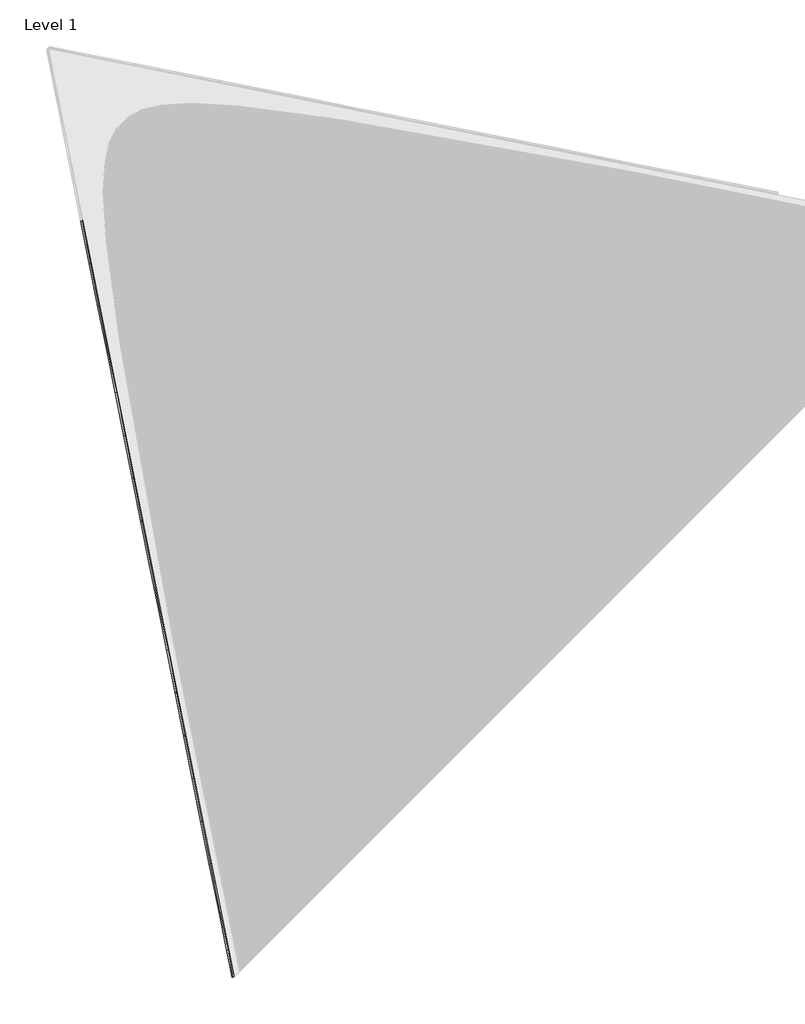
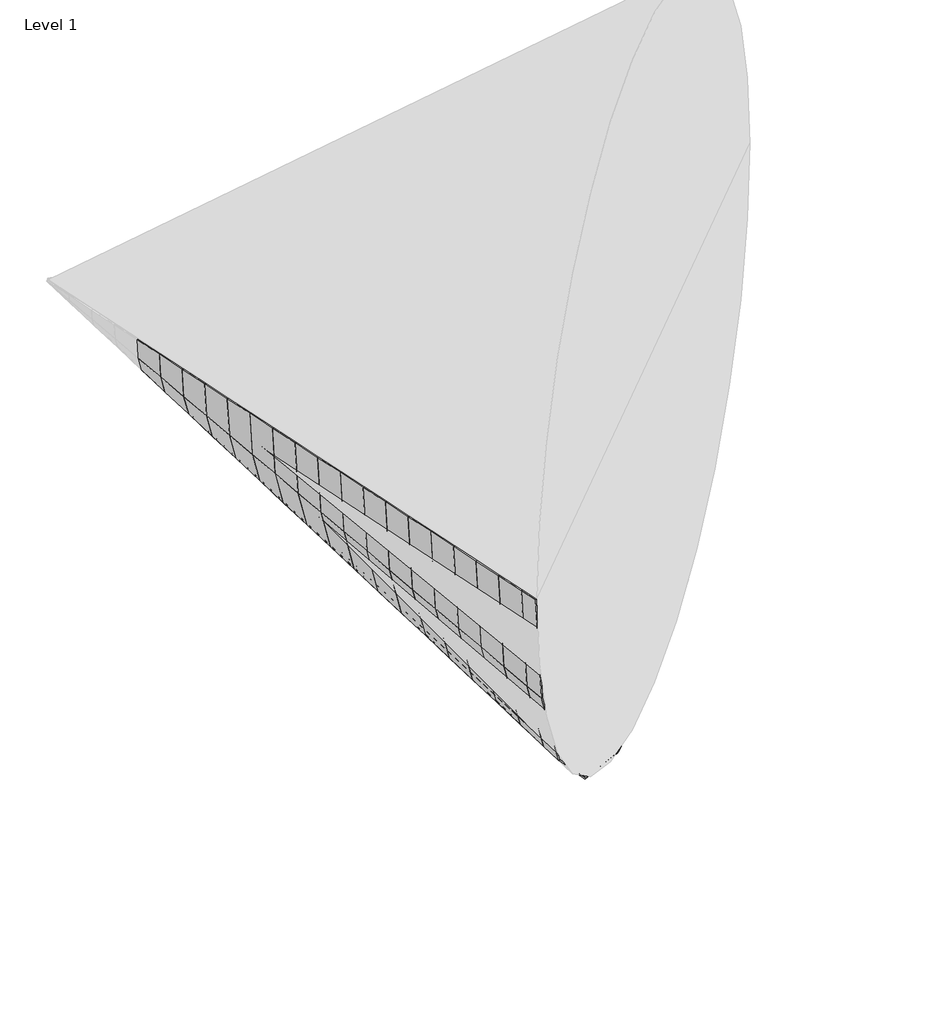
# One storey, part 1 of 3: 76 plates.
"""IFC4 building model written with IfcOpenShell, lengths in millimetres."""

from ifc_helpers import new_model, si_unit, origin, place, context, project, spatial, transform, mapped, element, save
from components import system_panel_glazed_f45525ea, system_panel_glazed_80685a2c, system_panel_glazed_488679e0, system_panel_glazed_5c7ad1fa, system_panel_glazed_c752f533, system_panel_glazed_6e7ce93c, system_panel_glazed_3d0a4322, system_panel_glazed_80a4cad8, system_panel_glazed_88a27ec3, system_panel_glazed_43d3b831, system_panel_glazed_c03609ab, system_panel_glazed_4fe2338e, system_panel_glazed_aa8377f3, system_panel_glazed_52904192, system_panel_glazed_15a0884d, system_panel_glazed_a404a3f6, system_panel_glazed_49170262, system_panel_glazed_4835debb

model = new_model("IFC4")

# Units and contexts
model_context = context("Model", 3, world=origin())
ifc_project = project(units=[si_unit("LENGTHUNIT", "METRE", prefix="MILLI")], contexts=[model_context])

# Site, building, storey
site = spatial("IfcSite", under=ifc_project)
building = spatial("IfcBuilding", under=site)
storey = spatial("IfcBuildingStorey", under=building, Name="Level 1", Elevation=0.0)

# Plates
placement = place(None, origin())
system_panel_glazed_shape = system_panel_glazed_f45525ea(model_context)
element("IfcPlate", 1, ObjectType="System Panel : Glazed", at=placement, inside=storey, context=model_context, shape_type="MappedRepresentation", body=[
    mapped(system_panel_glazed_shape, transform((-10524.0400222, 7407.4857952, -277.8464189), x_axis=(0.11785113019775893, 0.11785113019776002, -0.986013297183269), y_axis=(0.9710241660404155, 0.1942048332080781, 0.1392715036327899), z_axis=(0.20790185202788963, -0.9738560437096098, -0.09154903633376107))),
])
element("IfcPlate", 2, ObjectType="System Panel : Glazed", at=placement, inside=storey, context=model_context, shape_type="MappedRepresentation", body=[
    mapped(system_panel_glazed_shape, transform((-10394.8939154, 7536.6319019, -802.6674323), x_axis=(0.3404588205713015, 0.3404588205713, -0.8764562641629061), y_axis=(0.906289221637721, 0.12946988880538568, 0.4023398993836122), z_axis=(0.2504548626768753, -0.9313030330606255, -0.26447499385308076))),
])
element("IfcPlate", 3, ObjectType="System Panel : Glazed", at=placement, inside=storey, context=model_context, shape_type="MappedRepresentation", body=[
    mapped(system_panel_glazed_shape, transform((-10150.9512693, 7780.5745481, -1238.3031755), x_axis=(0.5252377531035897, 0.5252377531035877, -0.6695152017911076), y_axis=(0.7840121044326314, 0.007192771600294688, 0.6207038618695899), z_axis=(0.3308327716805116, -0.8509251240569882, -0.4080148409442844))),
])
system_panel_glazed_2_shape = system_panel_glazed_80685a2c(model_context)
element("IfcPlate", 4, ObjectType="System Panel : Glazed", at=placement, inside=storey, context=model_context, shape_type="MappedRepresentation", body=[
    mapped(system_panel_glazed_2_shape, transform((-10366.2972775, 6668.58557, -347.3080236), x_axis=(0.11785113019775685, 0.11785113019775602, -0.9860132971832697), y_axis=(0.9710241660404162, 0.19420483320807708, 0.1392715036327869), z_axis=(0.20790185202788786, -0.9738560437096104, -0.0915490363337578))),
])
element("IfcPlate", 5, ObjectType="System Panel : Glazed", at=placement, inside=storey, context=model_context, shape_type="MappedRepresentation", body=[
    mapped(system_panel_glazed_2_shape, transform((-10204.864644, 6830.0182035, -1003.3342904), x_axis=(0.34045882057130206, 0.3404588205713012, -0.8764562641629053), y_axis=(0.9062892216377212, 0.12946988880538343, 0.40233989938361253), z_axis=(0.2504548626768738, -0.9313030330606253, -0.26447499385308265))),
])
element("IfcPlate", 6, ObjectType="System Panel : Glazed", at=placement, inside=storey, context=model_context, shape_type="MappedRepresentation", body=[
    mapped(system_panel_glazed_2_shape, transform((-9899.9363364, 7134.9465111, -1547.8789693), x_axis=(0.5252377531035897, 0.5252377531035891, -0.6695152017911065), y_axis=(0.7840121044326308, 0.007192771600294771, 0.6207038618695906), z_axis=(0.33083277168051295, -0.8509251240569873, -0.40801484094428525))),
])
element("IfcPlate", 7, ObjectType="System Panel : Glazed", at=placement, inside=storey, context=model_context, shape_type="MappedRepresentation", body=[
    mapped(system_panel_glazed_2_shape, transform((-9485.3932776, 7549.4895699, -1920.4370961), x_axis=(0.6516569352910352, 0.6516569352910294, -0.3881835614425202), y_axis=(0.6177791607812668, -0.15904017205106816, 0.7701007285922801), z_axis=(0.4401047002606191, -0.7416531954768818, -0.5062197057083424))),
])
system_panel_glazed_3_shape = system_panel_glazed_488679e0(model_context)
element("IfcPlate", 8, ObjectType="System Panel : Glazed", at=placement, inside=storey, context=model_context, shape_type="MappedRepresentation", body=[
    mapped(system_panel_glazed_3_shape, transform((-10208.5545328, 5929.6853449, -416.7696283), x_axis=(0.11785113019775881, 0.11785113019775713, -0.9860132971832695), y_axis=(0.9710241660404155, 0.19420483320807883, 0.1392715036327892), z_axis=(0.2079018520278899, -0.9738560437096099, -0.0915490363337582))),
])
element("IfcPlate", 9, ObjectType="System Panel : Glazed", at=placement, inside=storey, context=model_context, shape_type="MappedRepresentation", body=[
    mapped(system_panel_glazed_3_shape, transform((-10014.8353726, 6123.404505, -1204.0011484), x_axis=(0.3404588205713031, 0.34045882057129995, -0.8764562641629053), y_axis=(0.9062892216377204, 0.12946988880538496, 0.40233989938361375), z_axis=(0.25045486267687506, -0.9313030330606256, -0.2644749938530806))),
])
element("IfcPlate", 10, ObjectType="System Panel : Glazed", at=placement, inside=storey, context=model_context, shape_type="MappedRepresentation", body=[
    mapped(system_panel_glazed_3_shape, transform((-9648.9214034, 6489.3184742, -1857.4547632), x_axis=(0.5252377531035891, 0.5252377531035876, -0.6695152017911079), y_axis=(0.7840121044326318, 0.007192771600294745, 0.6207038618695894), z_axis=(0.3308327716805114, -0.8509251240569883, -0.40801484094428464))),
])
element("IfcPlate", 11, ObjectType="System Panel : Glazed", at=placement, inside=storey, context=model_context, shape_type="MappedRepresentation", body=[
    mapped(system_panel_glazed_3_shape, transform((-9151.4697329, 6986.7701447, -2304.5245154), x_axis=(0.6516569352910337, 0.6516569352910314, -0.38818356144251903), y_axis=(0.6177791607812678, -0.1590401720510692, 0.770100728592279), z_axis=(0.4401047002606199, -0.7416531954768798, -0.5062197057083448))),
])
element("IfcPlate", 12, ObjectType="System Panel : Glazed", at=placement, inside=storey, context=model_context, shape_type="MappedRepresentation", body=[
    mapped(system_panel_glazed_3_shape, transform((-8577.7527689, 7560.4871087, -2495.535988), x_axis=(0.7056697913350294, 0.7056697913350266, -0.06372041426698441), y_axis=(0.42606071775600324, -0.3507586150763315, 0.8339308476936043), z_axis=(0.56612932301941, -0.6156285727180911, -0.5481779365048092))),
])
system_panel_glazed_4_shape = system_panel_glazed_5c7ad1fa(model_context)
element("IfcPlate", 13, ObjectType="System Panel : Glazed", at=placement, inside=storey, context=model_context, shape_type="MappedRepresentation", body=[
    mapped(system_panel_glazed_4_shape, transform((-10050.8117881, 5190.7851197, -486.231233), x_axis=(0.11785113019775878, 0.11785113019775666, -0.9860132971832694), y_axis=(0.9710241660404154, 0.1942048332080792, 0.13927150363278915), z_axis=(0.20790185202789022, -0.9738560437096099, -0.09154903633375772))),
])
element("IfcPlate", 14, ObjectType="System Panel : Glazed", at=placement, inside=storey, context=model_context, shape_type="MappedRepresentation", body=[
    mapped(system_panel_glazed_4_shape, transform((-9824.8061012, 5416.7908065, -1404.6680065), x_axis=(0.3404588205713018, 0.34045882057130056, -0.8764562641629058), y_axis=(0.9062892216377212, 0.12946988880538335, 0.4023398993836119), z_axis=(0.25045486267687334, -0.9313030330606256, -0.26447499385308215))),
])
element("IfcPlate", 15, ObjectType="System Panel : Glazed", at=placement, inside=storey, context=model_context, shape_type="MappedRepresentation", body=[
    mapped(system_panel_glazed_4_shape, transform((-9397.9064705, 5843.6904373, -2167.030557), x_axis=(0.5252377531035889, 0.5252377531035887, -0.6695152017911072), y_axis=(0.7840121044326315, 0.007192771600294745, 0.6207038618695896), z_axis=(0.33083277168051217, -0.8509251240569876, -0.40801484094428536))),
])
element("IfcPlate", 16, ObjectType="System Panel : Glazed", at=placement, inside=storey, context=model_context, shape_type="MappedRepresentation", body=[
    mapped(system_panel_glazed_4_shape, transform((-8817.5461883, 6424.0507195, -2688.6119346), x_axis=(0.6516569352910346, 0.6516569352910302, -0.3881835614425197), y_axis=(0.617779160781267, -0.15904017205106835, 0.7701007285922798), z_axis=(0.44010470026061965, -0.7416531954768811, -0.5062197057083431))),
])
element("IfcPlate", 17, ObjectType="System Panel : Glazed", at=placement, inside=storey, context=model_context, shape_type="MappedRepresentation", body=[
    mapped(system_panel_glazed_4_shape, transform((-8148.2097302, 7093.3871775, -2911.4586527), x_axis=(0.7056697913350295, 0.7056697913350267, -0.06372041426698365), y_axis=(0.42606071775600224, -0.35075861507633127, 0.8339308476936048), z_axis=(0.5661293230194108, -0.6156285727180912, -0.5481779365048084))),
])
system_panel_glazed_5_shape = system_panel_glazed_c752f533(model_context)
element("IfcPlate", 18, ObjectType="System Panel : Glazed", at=placement, inside=storey, context=model_context, shape_type="MappedRepresentation", body=[
    mapped(system_panel_glazed_5_shape, transform((-9893.0690434, 4451.8848945, -555.6928377), x_axis=(0.1178511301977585, 0.11785113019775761, -0.9860132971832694), y_axis=(0.9710241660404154, 0.19420483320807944, 0.1392715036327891), z_axis=(0.20790185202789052, -0.9738560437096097, -0.09154903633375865))),
])
element("IfcPlate", 19, ObjectType="System Panel : Glazed", at=placement, inside=storey, context=model_context, shape_type="MappedRepresentation", body=[
    mapped(system_panel_glazed_5_shape, transform((-9634.7768298, 4710.1771081, -1605.3348646), x_axis=(0.34045882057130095, 0.3404588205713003, -0.8764562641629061), y_axis=(0.9062892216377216, 0.1294698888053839, 0.40233989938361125), z_axis=(0.25045486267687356, -0.9313030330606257, -0.26447499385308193))),
])
element("IfcPlate", 20, ObjectType="System Panel : Glazed", at=placement, inside=storey, context=model_context, shape_type="MappedRepresentation", body=[
    mapped(system_panel_glazed_5_shape, transform((-9146.8915376, 5198.0624003, -2476.6063509), x_axis=(0.5252377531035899, 0.5252377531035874, -0.6695152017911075), y_axis=(0.7840121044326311, 0.007192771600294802, 0.6207038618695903), z_axis=(0.33083277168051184, -0.8509251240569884, -0.40801484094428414))),
])
element("IfcPlate", 21, ObjectType="System Panel : Glazed", at=placement, inside=storey, context=model_context, shape_type="MappedRepresentation", body=[
    mapped(system_panel_glazed_5_shape, transform((-8483.6226436, 5861.3312943, -3072.6993538), x_axis=(0.6516569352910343, 0.6516569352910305, -0.38818356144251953), y_axis=(0.6177791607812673, -0.15904017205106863, 0.7701007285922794), z_axis=(0.4401047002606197, -0.7416531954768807, -0.5062197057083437))),
])
system_panel_glazed_6_shape = system_panel_glazed_6e7ce93c(model_context)
element("IfcPlate", 22, ObjectType="System Panel : Glazed", at=placement, inside=storey, context=model_context, shape_type="MappedRepresentation", body=[
    mapped(system_panel_glazed_6_shape, transform((-9735.3262987, 3712.9846694, -625.1544425), x_axis=(0.11785113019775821, 0.11785113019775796, -0.9860132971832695), y_axis=(0.9710241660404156, 0.19420483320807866, 0.13927150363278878), z_axis=(0.2079018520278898, -0.9738560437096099, -0.09154903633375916))),
])
element("IfcPlate", 23, ObjectType="System Panel : Glazed", at=placement, inside=storey, context=model_context, shape_type="MappedRepresentation", body=[
    mapped(system_panel_glazed_6_shape, transform((-9444.7475585, 4003.5634096, -1806.0017227), x_axis=(0.3404588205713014, 0.3404588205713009, -0.8764562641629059), y_axis=(0.906289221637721, 0.12946988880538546, 0.40233989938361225), z_axis=(0.2504548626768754, -0.9313030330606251, -0.26447499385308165))),
])
element("IfcPlate", 24, ObjectType="System Panel : Glazed", at=placement, inside=storey, context=model_context, shape_type="MappedRepresentation", body=[
    mapped(system_panel_glazed_6_shape, transform((-8895.8766047, 4552.4343634, -2786.1821448), x_axis=(0.5252377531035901, 0.5252377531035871, -0.6695152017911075), y_axis=(0.7840121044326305, 0.007192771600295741, 0.6207038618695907), z_axis=(0.3308327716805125, -0.8509251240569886, -0.40801484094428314))),
])
element("IfcPlate", 25, ObjectType="System Panel : Glazed", at=placement, inside=storey, context=model_context, shape_type="MappedRepresentation", body=[
    mapped(system_panel_glazed_6_shape, transform((-8149.6990989, 5298.6118692, -3456.786773), x_axis=(0.651656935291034, 0.6516569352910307, -0.38818356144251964), y_axis=(0.6177791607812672, -0.15904017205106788, 0.7701007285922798), z_axis=(0.4401047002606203, -0.7416531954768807, -0.5062197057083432))),
])
system_panel_glazed_7_shape = system_panel_glazed_3d0a4322(model_context)
element("IfcPlate", 26, ObjectType="System Panel : Glazed", at=placement, inside=storey, context=model_context, shape_type="MappedRepresentation", body=[
    mapped(system_panel_glazed_7_shape, transform((-9577.583554, 2974.0844442, -694.6160472), x_axis=(0.11785113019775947, 0.1178511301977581, -0.9860132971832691), y_axis=(0.9710241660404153, 0.19420483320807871, 0.1392715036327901), z_axis=(0.20790185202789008, -0.97385604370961, -0.09154903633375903))),
])
element("IfcPlate", 27, ObjectType="System Panel : Glazed", at=placement, inside=storey, context=model_context, shape_type="MappedRepresentation", body=[
    mapped(system_panel_glazed_7_shape, transform((-9254.7182871, 3296.9497112, -2006.6685807), x_axis=(0.34045882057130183, 0.3404588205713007, -0.8764562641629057), y_axis=(0.9062892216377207, 0.12946988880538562, 0.40233989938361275), z_axis=(0.2504548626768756, -0.9313030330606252, -0.2644749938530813))),
])
element("IfcPlate", 28, ObjectType="System Panel : Glazed", at=placement, inside=storey, context=model_context, shape_type="MappedRepresentation", body=[
    mapped(system_panel_glazed_7_shape, transform((-8644.8616718, 3906.8063265, -3095.7579386), x_axis=(0.5252377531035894, 0.5252377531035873, -0.6695152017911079), y_axis=(0.7840121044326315, 0.007192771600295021, 0.6207038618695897), z_axis=(0.33083277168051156, -0.8509251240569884, -0.40801484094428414))),
])
system_panel_glazed_8_shape = system_panel_glazed_80a4cad8(model_context)
element("IfcPlate", 29, ObjectType="System Panel : Glazed", at=placement, inside=storey, context=model_context, shape_type="MappedRepresentation", body=[
    mapped(system_panel_glazed_8_shape, transform((-9419.8408093, 2235.1842191, -764.0776519), x_axis=(0.11785113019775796, 0.11785113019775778, -0.9860132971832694), y_axis=(0.9710241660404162, 0.1942048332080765, 0.13927150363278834), z_axis=(0.20790185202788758, -0.9738560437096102, -0.09154903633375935))),
])
element("IfcPlate", 30, ObjectType="System Panel : Glazed", at=placement, inside=storey, context=model_context, shape_type="MappedRepresentation", body=[
    mapped(system_panel_glazed_8_shape, transform((-9064.6890157, 2590.3360127, -2207.3354388), x_axis=(0.3404588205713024, 0.34045882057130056, -0.8764562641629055), y_axis=(0.9062892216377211, 0.12946988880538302, 0.40233989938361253), z_axis=(0.2504548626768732, -0.9313030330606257, -0.26447499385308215))),
])
element("IfcPlate", 31, ObjectType="System Panel : Glazed", at=placement, inside=storey, context=model_context, shape_type="MappedRepresentation", body=[
    mapped(system_panel_glazed_8_shape, transform((-8393.8467389, 3261.1782895, -3405.3337325), x_axis=(0.5252377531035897, 0.5252377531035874, -0.6695152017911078), y_axis=(0.7840121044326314, 0.0071927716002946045, 0.6207038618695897), z_axis=(0.3308327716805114, -0.8509251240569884, -0.40801484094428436))),
])
system_panel_glazed_9_shape = system_panel_glazed_88a27ec3(model_context)
element("IfcPlate", 32, ObjectType="System Panel : Glazed", at=placement, inside=storey, context=model_context, shape_type="MappedRepresentation", body=[
    mapped(system_panel_glazed_9_shape, transform((-9262.0980646, 1496.2839939, -833.5392566), x_axis=(0.11785113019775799, 0.1178511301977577, -0.9860132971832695), y_axis=(0.9710241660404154, 0.19420483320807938, 0.1392715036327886), z_axis=(0.20790185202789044, -0.9738560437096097, -0.09154903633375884))),
])
element("IfcPlate", 33, ObjectType="System Panel : Glazed", at=placement, inside=storey, context=model_context, shape_type="MappedRepresentation", body=[
    mapped(system_panel_glazed_9_shape, transform((-8874.6597443, 1883.7223142, -2408.0022969), x_axis=(0.34045882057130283, 0.3404588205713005, -0.8764562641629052), y_axis=(0.9062892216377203, 0.12946988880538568, 0.4023398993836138), z_axis=(0.25045486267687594, -0.9313030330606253, -0.2644749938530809))),
])
element("IfcPlate", 34, ObjectType="System Panel : Glazed", at=placement, inside=storey, context=model_context, shape_type="MappedRepresentation", body=[
    mapped(system_panel_glazed_9_shape, transform((-8142.8318059, 2615.5502526, -3714.9095264), x_axis=(0.5252377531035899, 0.5252377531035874, -0.6695152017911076), y_axis=(0.7840121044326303, 0.007192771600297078, 0.6207038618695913), z_axis=(0.33083277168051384, -0.8509251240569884, -0.40801484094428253))),
])
element("IfcPlate", 35, ObjectType="System Panel : Glazed", at=placement, inside=storey, context=model_context, shape_type="MappedRepresentation", body=[
    mapped(system_panel_glazed_9_shape, transform((-7147.9284649, 3610.4535936, -4609.0490307), x_axis=(0.651656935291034, 0.651656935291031, -0.3881835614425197), y_axis=(0.6177791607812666, -0.15904017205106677, 0.7701007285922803), z_axis=(0.4401047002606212, -0.7416531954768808, -0.5062197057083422))),
])
system_panel_glazed_10_shape = system_panel_glazed_43d3b831(model_context)
element("IfcPlate", 36, ObjectType="System Panel : Glazed", at=placement, inside=storey, context=model_context, shape_type="MappedRepresentation", body=[
    mapped(system_panel_glazed_10_shape, transform((-9104.3553199, 757.3837688, -903.0008613), x_axis=(0.11785113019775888, 0.11785113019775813, -0.9860132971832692), y_axis=(0.9710241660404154, 0.1942048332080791, 0.13927150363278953), z_axis=(0.2079018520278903, -0.9738560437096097, -0.09154903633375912))),
])
element("IfcPlate", 37, ObjectType="System Panel : Glazed", at=placement, inside=storey, context=model_context, shape_type="MappedRepresentation", body=[
    mapped(system_panel_glazed_10_shape, transform((-8684.6304729, 1177.1086158, -2608.6691549), x_axis=(0.34045882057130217, 0.34045882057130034, -0.8764562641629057), y_axis=(0.9062892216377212, 0.12946988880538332, 0.4023398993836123), z_axis=(0.25045486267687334, -0.9313030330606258, -0.26447499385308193))),
])
element("IfcPlate", 38, ObjectType="System Panel : Glazed", at=placement, inside=storey, context=model_context, shape_type="MappedRepresentation", body=[
    mapped(system_panel_glazed_10_shape, transform((-7891.816873, 1969.9222157, -4024.4853202), x_axis=(0.52523775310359, 0.5252377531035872, -0.6695152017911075), y_axis=(0.7840121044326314, 0.007192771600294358, 0.62070386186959), z_axis=(0.33083277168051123, -0.8509251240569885, -0.40801484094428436))),
])
element("IfcPlate", 39, ObjectType="System Panel : Glazed", at=placement, inside=storey, context=model_context, shape_type="MappedRepresentation", body=[
    mapped(system_panel_glazed_10_shape, transform((-6814.0049202, 3047.7341684, -4993.1364499), x_axis=(0.6516569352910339, 0.6516569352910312, -0.3881835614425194), y_axis=(0.6177791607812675, -0.1590401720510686, 0.7701007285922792), z_axis=(0.44010470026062, -0.7416531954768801, -0.5062197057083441))),
])
system_panel_glazed_11_shape = system_panel_glazed_c03609ab(model_context)
element("IfcPlate", 40, ObjectType="System Panel : Glazed", at=placement, inside=storey, context=model_context, shape_type="MappedRepresentation", body=[
    mapped(system_panel_glazed_11_shape, transform((-8946.6125752, 18.4835436, -972.462466), x_axis=(0.11785113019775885, 0.11785113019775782, -0.9860132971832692), y_axis=(0.9710241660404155, 0.19420483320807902, 0.13927150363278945), z_axis=(0.20790185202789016, -0.9738560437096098, -0.09154903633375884))),
])
element("IfcPlate", 41, ObjectType="System Panel : Glazed", at=placement, inside=storey, context=model_context, shape_type="MappedRepresentation", body=[
    mapped(system_panel_glazed_11_shape, transform((-8494.6012015, 470.4949173, -2809.336013), x_axis=(0.34045882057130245, 0.34045882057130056, -0.8764562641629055), y_axis=(0.9062892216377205, 0.12946988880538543, 0.4023398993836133), z_axis=(0.2504548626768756, -0.9313030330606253, -0.26447499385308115))),
])
element("IfcPlate", 42, ObjectType="System Panel : Glazed", at=placement, inside=storey, context=model_context, shape_type="MappedRepresentation", body=[
    mapped(system_panel_glazed_11_shape, transform((-7640.8019401, 1324.2941787, -4334.0611141), x_axis=(0.5252377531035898, 0.5252377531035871, -0.6695152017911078), y_axis=(0.7840121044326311, 0.007192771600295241, 0.6207038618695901), z_axis=(0.33083277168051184, -0.8509251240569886, -0.4080148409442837))),
])
element("IfcPlate", 43, ObjectType="System Panel : Glazed", at=placement, inside=storey, context=model_context, shape_type="MappedRepresentation", body=[
    mapped(system_panel_glazed_11_shape, transform((-6480.0813756, 2485.0147433, -5377.2238692), x_axis=(0.6516569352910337, 0.651656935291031, -0.38818356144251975), y_axis=(0.6177791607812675, -0.15904017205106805, 0.7701007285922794), z_axis=(0.4401047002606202, -0.7416531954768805, -0.5062197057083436))),
])
element("IfcPlate", 44, ObjectType="System Panel : Glazed", at=placement, inside=storey, context=model_context, shape_type="MappedRepresentation", body=[
    mapped(system_panel_glazed_11_shape, transform((-5141.4084595, 3823.6876593, -5822.9173054), x_axis=(0.7056697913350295, 0.7056697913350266, -0.06372041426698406), y_axis=(0.4260607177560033, -0.35075861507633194, 0.833930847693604), z_axis=(0.5661293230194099, -0.6156285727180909, -0.5481779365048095))),
])
system_panel_glazed_12_shape = system_panel_glazed_4fe2338e(model_context)
element("IfcPlate", 45, ObjectType="System Panel : Glazed", at=placement, inside=storey, context=model_context, shape_type="MappedRepresentation", body=[
    mapped(system_panel_glazed_12_shape, transform((-8788.8698305, -720.4166815, -1041.9240708), x_axis=(0.1178511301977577, 0.11785113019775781, -0.9860132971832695), y_axis=(0.9710241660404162, 0.19420483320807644, 0.13927150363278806), z_axis=(0.20790185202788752, -0.9738560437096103, -0.09154903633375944))),
])
element("IfcPlate", 46, ObjectType="System Panel : Glazed", at=placement, inside=storey, context=model_context, shape_type="MappedRepresentation", body=[
    mapped(system_panel_glazed_12_shape, transform((-8304.5719301, -236.1187812, -3010.0028711), x_axis=(0.3404588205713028, 0.34045882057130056, -0.8764562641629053), y_axis=(0.9062892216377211, 0.1294698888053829, 0.4023398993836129), z_axis=(0.2504548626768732, -0.9313030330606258, -0.26447499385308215))),
])
element("IfcPlate", 47, ObjectType="System Panel : Glazed", at=placement, inside=storey, context=model_context, shape_type="MappedRepresentation", body=[
    mapped(system_panel_glazed_12_shape, transform((-7389.7870072, 678.6661418, -4643.636908), x_axis=(0.5252377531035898, 0.5252377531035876, -0.6695152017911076), y_axis=(0.7840121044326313, 0.007192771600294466, 0.6207038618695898), z_axis=(0.3308327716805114, -0.8509251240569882, -0.4080148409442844))),
])
element("IfcPlate", 48, ObjectType="System Panel : Glazed", at=placement, inside=storey, context=model_context, shape_type="MappedRepresentation", body=[
    mapped(system_panel_glazed_12_shape, transform((-6146.1578309, 1922.2953181, -5761.3112884), x_axis=(0.651656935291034, 0.6516569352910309, -0.3881835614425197), y_axis=(0.6177791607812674, -0.15904017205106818, 0.7701007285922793), z_axis=(0.4401047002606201, -0.7416531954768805, -0.5062197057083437))),
])
element("IfcPlate", 49, ObjectType="System Panel : Glazed", at=placement, inside=storey, context=model_context, shape_type="MappedRepresentation", body=[
    mapped(system_panel_glazed_12_shape, transform((-4711.8654208, 3356.5877281, -6238.8399701), x_axis=(0.7056697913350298, 0.7056697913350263, -0.06372041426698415), y_axis=(0.42606071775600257, -0.3507586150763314, 0.8339308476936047), z_axis=(0.5661293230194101, -0.6156285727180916, -0.5481779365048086))),
])
system_panel_glazed_13_shape = system_panel_glazed_aa8377f3(model_context)
element("IfcPlate", 50, ObjectType="System Panel : Glazed", at=placement, inside=storey, context=model_context, shape_type="MappedRepresentation", body=[
    mapped(system_panel_glazed_13_shape, transform((-8631.1270858, -1459.3169067, -1111.3856755), x_axis=(0.11785113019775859, 0.11785113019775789, -0.9860132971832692), y_axis=(0.9710241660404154, 0.19420483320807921, 0.13927150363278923), z_axis=(0.2079018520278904, -0.9738560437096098, -0.09154903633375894))),
])
element("IfcPlate", 51, ObjectType="System Panel : Glazed", at=placement, inside=storey, context=model_context, shape_type="MappedRepresentation", body=[
    mapped(system_panel_glazed_13_shape, transform((-8114.5426587, -942.7324796, -3210.6697292), x_axis=(0.34045882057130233, 0.3404588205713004, -0.8764562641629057), y_axis=(0.9062892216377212, 0.1294698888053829, 0.40233989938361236), z_axis=(0.25045486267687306, -0.9313030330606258, -0.26447499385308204))),
])
element("IfcPlate", 52, ObjectType="System Panel : Glazed", at=placement, inside=storey, context=model_context, shape_type="MappedRepresentation", body=[
    mapped(system_panel_glazed_13_shape, transform((-7138.7720743, 33.0381049, -4953.2127018), x_axis=(0.52523775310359, 0.5252377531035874, -0.6695152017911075), y_axis=(0.7840121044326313, 0.007192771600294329, 0.62070386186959), z_axis=(0.33083277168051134, -0.8509251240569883, -0.40801484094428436))),
])
element("IfcPlate", 53, ObjectType="System Panel : Glazed", at=placement, inside=storey, context=model_context, shape_type="MappedRepresentation", body=[
    mapped(system_panel_glazed_13_shape, transform((-5812.2342862, 1359.5758929, -6145.3987076), x_axis=(0.6516569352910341, 0.6516569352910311, -0.38818356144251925), y_axis=(0.6177791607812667, -0.15904017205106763, 0.7701007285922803), z_axis=(0.44010470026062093, -0.7416531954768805, -0.5062197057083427))),
])
element("IfcPlate", 54, ObjectType="System Panel : Glazed", at=placement, inside=storey, context=model_context, shape_type="MappedRepresentation", body=[
    mapped(system_panel_glazed_13_shape, transform((-4282.3223822, 2889.487797, -6654.7626348), x_axis=(0.7056697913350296, 0.7056697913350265, -0.06372041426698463), y_axis=(0.4260607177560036, -0.35075861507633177, 0.8339308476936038), z_axis=(0.5661293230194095, -0.6156285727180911, -0.5481779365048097))),
])
system_panel_glazed_14_shape = system_panel_glazed_52904192(model_context)
element("IfcPlate", 55, ObjectType="System Panel : Glazed", at=placement, inside=storey, context=model_context, shape_type="MappedRepresentation", body=[
    mapped(system_panel_glazed_14_shape, transform((-8473.3843411, -2198.2171319, -1180.8472802), x_axis=(0.11785113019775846, 0.11785113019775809, -0.9860132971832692), y_axis=(0.971024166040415, 0.19420483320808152, 0.13927150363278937), z_axis=(0.20790185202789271, -0.9738560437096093, -0.09154903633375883))),
])
element("IfcPlate", 56, ObjectType="System Panel : Glazed", at=placement, inside=storey, context=model_context, shape_type="MappedRepresentation", body=[
    mapped(system_panel_glazed_14_shape, transform((-7924.5133874, -1649.3461781, -3411.3365872), x_axis=(0.34045882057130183, 0.3404588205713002, -0.8764562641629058), y_axis=(0.9062892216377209, 0.12946988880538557, 0.4023398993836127), z_axis=(0.2504548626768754, -0.9313030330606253, -0.26447499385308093))),
])
element("IfcPlate", 57, ObjectType="System Panel : Glazed", at=placement, inside=storey, context=model_context, shape_type="MappedRepresentation", body=[
    mapped(system_panel_glazed_14_shape, transform((-6887.7571413, -612.5899321, -5262.7884957), x_axis=(0.5252377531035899, 0.5252377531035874, -0.6695152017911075), y_axis=(0.7840121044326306, 0.007192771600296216, 0.6207038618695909), z_axis=(0.3308327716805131, -0.8509251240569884, -0.40801484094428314))),
])
element("IfcPlate", 58, ObjectType="System Panel : Glazed", at=placement, inside=storey, context=model_context, shape_type="MappedRepresentation", body=[
    mapped(system_panel_glazed_14_shape, transform((-5478.3107416, 796.8564677, -6529.4861268), x_axis=(0.651656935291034, 0.6516569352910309, -0.3881835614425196), y_axis=(0.6177791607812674, -0.15904017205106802, 0.7701007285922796), z_axis=(0.44010470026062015, -0.7416531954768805, -0.5062197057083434))),
])
system_panel_glazed_15_shape = system_panel_glazed_15a0884d(model_context)
element("IfcPlate", 59, ObjectType="System Panel : Glazed", at=placement, inside=storey, context=model_context, shape_type="MappedRepresentation", body=[
    mapped(system_panel_glazed_15_shape, transform((-8315.6415964, -2937.117357, -1250.3088849), x_axis=(0.11785113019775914, 0.11785113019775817, -0.9860132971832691), y_axis=(0.9710241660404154, 0.1942048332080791, 0.1392715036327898), z_axis=(0.20790185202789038, -0.9738560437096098, -0.09154903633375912))),
])
element("IfcPlate", 60, ObjectType="System Panel : Glazed", at=placement, inside=storey, context=model_context, shape_type="MappedRepresentation", body=[
    mapped(system_panel_glazed_15_shape, transform((-7734.484116, -2355.9598765, -3612.0034453), x_axis=(0.34045882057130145, 0.3404588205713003, -0.876456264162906), y_axis=(0.9062892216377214, 0.129469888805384, 0.4023398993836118), z_axis=(0.2504548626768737, -0.9313030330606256, -0.26447499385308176))),
])
element("IfcPlate", 61, ObjectType="System Panel : Glazed", at=placement, inside=storey, context=model_context, shape_type="MappedRepresentation", body=[
    mapped(system_panel_glazed_15_shape, transform((-6636.7422084, -1258.217969, -5572.3642896), x_axis=(0.5252377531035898, 0.5252377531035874, -0.6695152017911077), y_axis=(0.7840121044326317, 0.007192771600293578, 0.6207038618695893), z_axis=(0.33083277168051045, -0.8509251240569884, -0.40801484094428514))),
])
element("IfcPlate", 62, ObjectType="System Panel : Glazed", at=placement, inside=storey, context=model_context, shape_type="MappedRepresentation", body=[
    mapped(system_panel_glazed_15_shape, transform((-5144.3871969, 234.1370425, -6913.5735461), x_axis=(0.6516569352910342, 0.6516569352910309, -0.3881835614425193), y_axis=(0.6177791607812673, -0.15904017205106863, 0.7701007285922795), z_axis=(0.44010470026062, -0.7416531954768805, -0.5062197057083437))),
])
element("IfcPlate", 63, ObjectType="System Panel : Glazed", at=placement, inside=storey, context=model_context, shape_type="MappedRepresentation", body=[
    mapped(system_panel_glazed_15_shape, transform((-3423.2363048, 1955.2879346, -7486.6079641), x_axis=(0.7056697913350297, 0.7056697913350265, -0.06372041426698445), y_axis=(0.42606071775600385, -0.35075861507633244, 0.8339308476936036), z_axis=(0.5661293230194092, -0.6156285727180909, -0.5481779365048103))),
])
system_panel_glazed_16_shape = system_panel_glazed_a404a3f6(model_context)
element("IfcPlate", 64, ObjectType="System Panel : Glazed", at=placement, inside=storey, context=model_context, shape_type="MappedRepresentation", body=[
    mapped(system_panel_glazed_16_shape, transform((-8157.8988517, -3676.0175822, -1319.7704896), x_axis=(0.11785113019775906, 0.11785113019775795, -0.9860132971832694), y_axis=(0.9710241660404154, 0.19420483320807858, 0.1392715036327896), z_axis=(0.2079018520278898, -0.9738560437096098, -0.09154903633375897))),
])
element("IfcPlate", 65, ObjectType="System Panel : Glazed", at=placement, inside=storey, context=model_context, shape_type="MappedRepresentation", body=[
    mapped(system_panel_glazed_16_shape, transform((-7544.4548446, -3062.573575, -3812.6703034), x_axis=(0.3404588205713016, 0.3404588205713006, -0.8764562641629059), y_axis=(0.9062892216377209, 0.1294698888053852, 0.4023398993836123), z_axis=(0.2504548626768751, -0.9313030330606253, -0.2644749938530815))),
])
element("IfcPlate", 66, ObjectType="System Panel : Glazed", at=placement, inside=storey, context=model_context, shape_type="MappedRepresentation", body=[
    mapped(system_panel_glazed_16_shape, transform((-6385.7272755, -1903.8460059, -5881.9400834), x_axis=(0.52523775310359, 0.5252377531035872, -0.6695152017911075), y_axis=(0.7840121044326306, 0.007192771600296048, 0.6207038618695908), z_axis=(0.33083277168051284, -0.8509251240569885, -0.4080148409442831))),
])
element("IfcPlate", 67, ObjectType="System Panel : Glazed", at=placement, inside=storey, context=model_context, shape_type="MappedRepresentation", body=[
    mapped(system_panel_glazed_16_shape, transform((-4810.4636522, -328.5823826, -7297.6609653), x_axis=(0.6516569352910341, 0.651656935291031, -0.3881835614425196), y_axis=(0.6177791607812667, -0.15904017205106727, 0.7701007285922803), z_axis=(0.4401047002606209, -0.7416531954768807, -0.5062197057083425))),
])
system_panel_glazed_17_shape = system_panel_glazed_49170262(model_context)
element("IfcPlate", 68, ObjectType="System Panel : Glazed", at=placement, inside=storey, context=model_context, shape_type="MappedRepresentation", body=[
    mapped(system_panel_glazed_17_shape, transform((-8000.156107, -4414.9178073, -1389.2320943), x_axis=(0.11785113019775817, 0.11785113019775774, -0.9860132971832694), y_axis=(0.9710241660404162, 0.19420483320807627, 0.1392715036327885), z_axis=(0.20790185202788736, -0.9738560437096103, -0.0915490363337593))),
])
element("IfcPlate", 69, ObjectType="System Panel : Glazed", at=placement, inside=storey, context=model_context, shape_type="MappedRepresentation", body=[
    mapped(system_panel_glazed_17_shape, transform((-7354.4255732, -3769.1872735, -4013.3371614), x_axis=(0.3404588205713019, 0.34045882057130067, -0.8764562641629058), y_axis=(0.9062892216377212, 0.1294698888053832, 0.402339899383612), z_axis=(0.2504548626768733, -0.9313030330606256, -0.26447499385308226))),
])
element("IfcPlate", 70, ObjectType="System Panel : Glazed", at=placement, inside=storey, context=model_context, shape_type="MappedRepresentation", body=[
    mapped(system_panel_glazed_17_shape, transform((-6134.7123426, -2549.4740429, -6191.5158773), x_axis=(0.5252377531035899, 0.5252377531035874, -0.6695152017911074), y_axis=(0.7840121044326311, 0.007192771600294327, 0.62070386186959), z_axis=(0.33083277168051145, -0.8509251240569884, -0.40801484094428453))),
])
element("IfcPlate", 71, ObjectType="System Panel : Glazed", at=placement, inside=storey, context=model_context, shape_type="MappedRepresentation", body=[
    mapped(system_panel_glazed_17_shape, transform((-4476.5401075, -891.3018078, -7681.7483845), x_axis=(0.6516569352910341, 0.6516569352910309, -0.38818356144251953), y_axis=(0.6177791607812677, -0.1590401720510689, 0.7701007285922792), z_axis=(0.4401047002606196, -0.7416531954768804, -0.5062197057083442))),
])
system_panel_glazed_18_shape = system_panel_glazed_4835debb(model_context)
element("IfcPlate", 72, ObjectType="System Panel : Glazed", at=placement, inside=storey, context=model_context, shape_type="MappedRepresentation", body=[
    mapped(system_panel_glazed_18_shape, transform((-7842.4133623, -5153.8180325, -1458.6936991), x_axis=(0.11785113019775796, 0.11785113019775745, -0.9860132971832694), y_axis=(0.9710241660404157, 0.1942048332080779, 0.1392715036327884), z_axis=(0.20790185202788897, -0.97385604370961, -0.09154903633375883))),
])
element("IfcPlate", 73, ObjectType="System Panel : Glazed", at=placement, inside=storey, context=model_context, shape_type="MappedRepresentation", body=[
    mapped(system_panel_glazed_18_shape, transform((-7164.3963018, -4475.8009719, -4214.0040195), x_axis=(0.34045882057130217, 0.3404588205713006, -0.8764562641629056), y_axis=(0.9062892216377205, 0.12946988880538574, 0.4023398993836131), z_axis=(0.25045486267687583, -0.9313030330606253, -0.2644749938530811))),
])
element("IfcPlate", 74, ObjectType="System Panel : Glazed", at=placement, inside=storey, context=model_context, shape_type="MappedRepresentation", body=[
    mapped(system_panel_glazed_18_shape, transform((-5883.6974097, -3195.1020798, -6501.0916711), x_axis=(0.5252377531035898, 0.5252377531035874, -0.6695152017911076), y_axis=(0.784012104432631, 0.007192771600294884, 0.62070386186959), z_axis=(0.3308327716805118, -0.8509251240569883, -0.4080148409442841))),
])
element("IfcPlate", 75, ObjectType="System Panel : Glazed", at=placement, inside=storey, context=model_context, shape_type="MappedRepresentation", body=[
    mapped(system_panel_glazed_18_shape, transform((-4142.6165629, -1454.021233, -8065.8358037), x_axis=(0.6516569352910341, 0.6516569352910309, -0.3881835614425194), y_axis=(0.6177791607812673, -0.15904017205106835, 0.7701007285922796), z_axis=(0.44010470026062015, -0.7416531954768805, -0.5062197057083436))),
])
element("IfcPlate", 76, ObjectType="System Panel : Glazed", at=placement, inside=storey, context=model_context, shape_type="MappedRepresentation", body=[
    mapped(system_panel_glazed_18_shape, transform((-2134.6071888, 553.9881411, -8734.3759582), x_axis=(0.7056697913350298, 0.7056697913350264, -0.06372041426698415), y_axis=(0.42606071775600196, -0.3507586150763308, 0.8339308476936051), z_axis=(0.5661293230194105, -0.6156285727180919, -0.5481779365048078))),
])

save(model, "model.ifc")
